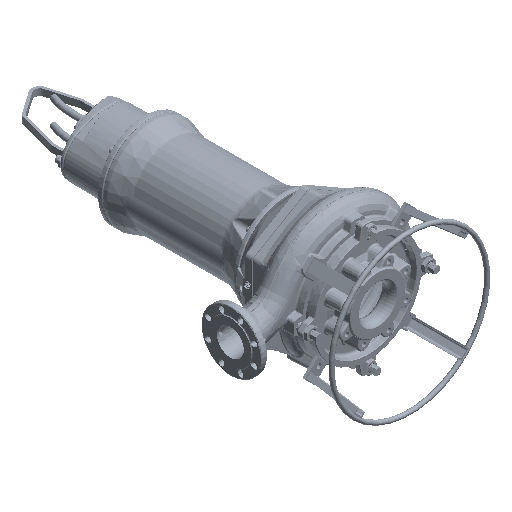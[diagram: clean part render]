
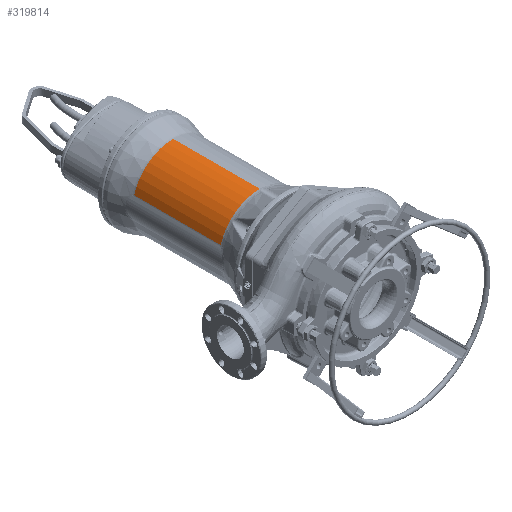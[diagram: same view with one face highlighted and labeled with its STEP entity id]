
A CAD part, isometric view. The second image highlights one B-rep face of the part: STEP entity #319814.
In plain terms, the highlighted cylindrical face has radius 152.5 mm (diameter 305 mm), a partial arc.
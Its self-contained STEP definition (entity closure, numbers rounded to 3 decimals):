
#35756 = VERTEX_POINT ( 'NONE', #396233 ) ;
#50521 = CARTESIAN_POINT ( 'NONE',  ( -146.306, 242.747, 43.023 ) ) ;
#80760 = AXIS2_PLACEMENT_3D ( 'NONE', #175368, #554729, #224576 ) ;
#87794 = CARTESIAN_POINT ( 'NONE',  ( 0., -81.36, 0. ) ) ;
#92919 = LINE ( 'NONE', #317520, #393541 ) ;
#118079 = VERTEX_POINT ( 'NONE', #401597 ) ;
#135800 = ORIENTED_EDGE ( 'NONE', *, *, #463906, .T. ) ;
#159494 = CARTESIAN_POINT ( 'NONE',  ( 0., 242.747, 0. ) ) ;
#175368 = CARTESIAN_POINT ( 'NONE',  ( 0., -311.232, 0. ) ) ;
#205533 = EDGE_LOOP ( 'NONE', ( #591384, #278275, #135800, #267976 ) ) ;
#219954 = DIRECTION ( 'NONE',  ( 0., -1., 0. ) ) ;
#224576 = DIRECTION ( 'NONE',  ( 0., 0., -1. ) ) ;
#235374 = DIRECTION ( 'NONE',  ( 0., 0., -1. ) ) ;
#267019 = AXIS2_PLACEMENT_3D ( 'NONE', #159494, #438357, #389150 ) ;
#267976 = ORIENTED_EDGE ( 'NONE', *, *, #607726, .F. ) ;
#278275 = ORIENTED_EDGE ( 'NONE', *, *, #591688, .T. ) ;
#289925 = CARTESIAN_POINT ( 'NONE',  ( 0., 242.747, 152.5 ) ) ;
#292978 = LINE ( 'NONE', #597224, #381260 ) ;
#293273 = AXIS2_PLACEMENT_3D ( 'NONE', #87794, #335568, #235374 ) ;
#317520 = CARTESIAN_POINT ( 'NONE',  ( -146.306, -311.232, 43.023 ) ) ;
#319814 = ADVANCED_FACE ( 'NONE', ( #428884 ), #348158, .T. ) ;
#335568 = DIRECTION ( 'NONE',  ( 0., -1., 0. ) ) ;
#348158 = CYLINDRICAL_SURFACE ( 'NONE', #80760, 152.5 ) ;
#379545 = VERTEX_POINT ( 'NONE', #50521 ) ;
#381260 = VECTOR ( 'NONE', #219954, 1000. ) ;
#389150 = DIRECTION ( 'NONE',  ( 0., 0., -1. ) ) ;
#393541 = VECTOR ( 'NONE', #455114, 1000. ) ;
#396233 = CARTESIAN_POINT ( 'NONE',  ( 0., -81.36, 152.5 ) ) ;
#401597 = CARTESIAN_POINT ( 'NONE',  ( -146.306, -81.36, 43.023 ) ) ;
#418531 = EDGE_CURVE ( 'NONE', #419554, #35756, #292978, .T. ) ;
#419554 = VERTEX_POINT ( 'NONE', #289925 ) ;
#428884 = FACE_OUTER_BOUND ( 'NONE', #205533, .T. ) ;
#438357 = DIRECTION ( 'NONE',  ( 0., -1., 0. ) ) ;
#455114 = DIRECTION ( 'NONE',  ( 0., -1., 0. ) ) ;
#463906 = EDGE_CURVE ( 'NONE', #379545, #118079, #92919, .T. ) ;
#554729 = DIRECTION ( 'NONE',  ( 0., -1., 0. ) ) ;
#573035 = CIRCLE ( 'NONE', #293273, 152.5 ) ;
#591384 = ORIENTED_EDGE ( 'NONE', *, *, #418531, .F. ) ;
#591688 = EDGE_CURVE ( 'NONE', #419554, #379545, #596514, .T. ) ;
#596514 = CIRCLE ( 'NONE', #267019, 152.5 ) ;
#597224 = CARTESIAN_POINT ( 'NONE',  ( 0., -311.232, 152.5 ) ) ;
#607726 = EDGE_CURVE ( 'NONE', #35756, #118079, #573035, .T. ) ;
